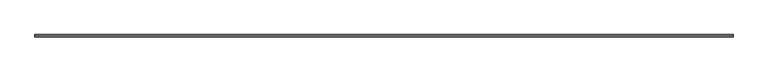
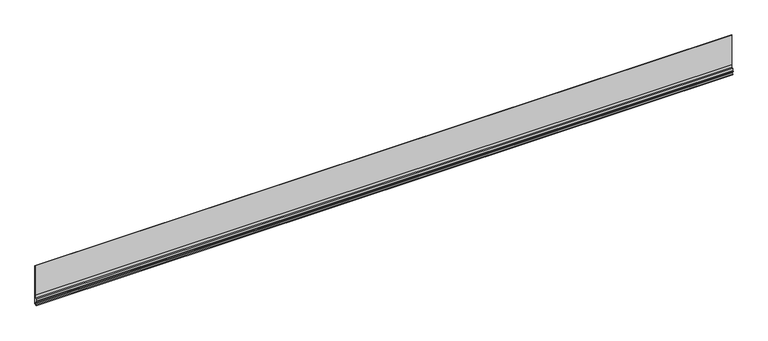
"""IFC4 building model written with IfcOpenShell, lengths in millimetres: plate geometry, FastPlank_P47V-V-Notch-Soffit-Plank : P47V-V-Notch-Soffit-Plank."""

from ifc_helpers import new_model, si_unit, frame, origin, place, context, project, spatial, polyline, outline, extrude, source, transform, mapped, element, save


def plate_53d9c273(model_context):
    return source(origin(), model_context, "Body", "SweptSolid", [
        extrude(outline(polyline([(8.1392275, 2.3957023), (3.9892358, 0.0), (3.9892358, 1.7319938), (6.6392305, 3.2617795), (6.6392305, 13.9827581), (4.7892342, 13.9827581), (4.7892342, 9.9691576), (2.5809265, 7.7608499), (2.5809265, 9.8794005), (3.2892372, 10.5877112), (3.2892372, 15.4863039), (6.8392301, 15.4863039), (6.8392301, 21.8363039), (8.1392275, 21.8363039), (8.1392275, 2.3957023)])), frame((-762.0000002, 0.0, 0.0), z_axis=(1.0, 0.0, 0.0), x_axis=(0.0, 1.0, 0.0)), (0.0, 0.0, 1.0), 1524.0000003),
        extrude(outline(polyline([(-762.0000002, 6.8392301), (-762.0000002, 8.1392275), (762.0000002, 8.1392275), (762.0000002, 6.8392301), (-762.0000002, 6.8392301)])), frame((0.0, 0.0, 21.8363039), z_axis=(0.0, 0.0, 1.0), x_axis=(1.0, 0.0, 0.0)), (0.0, 0.0, 1.0), 68.2115788),
    ])


if __name__ == "__main__":
    model = new_model("IFC4")
    model_context = context("Model", 3, world=origin())
    ifc_project = project(units=[si_unit("LENGTHUNIT", "METRE", prefix="MILLI")], contexts=[model_context])
    site = spatial("IfcSite", under=ifc_project)
    building = spatial("IfcBuilding", under=site)
    placement = place(None, origin())
    plate_shape = plate_53d9c273(model_context)
    element("IfcPlate", 1, ObjectType="FastPlank_P47V-V-Notch-Soffit-Plank : P47V-V-Notch-Soffit-Plank", at=placement, inside=building, context=model_context, shape_type="MappedRepresentation", body=[
        mapped(plate_shape, transform((0.0, 0.0, 0.0), x_axis=(1.0, 0.0, 0.0), y_axis=(0.0, 1.0, 0.0), z_axis=(0.0, 0.0, 1.0))),
    ])
    save(model, "model.ifc")
